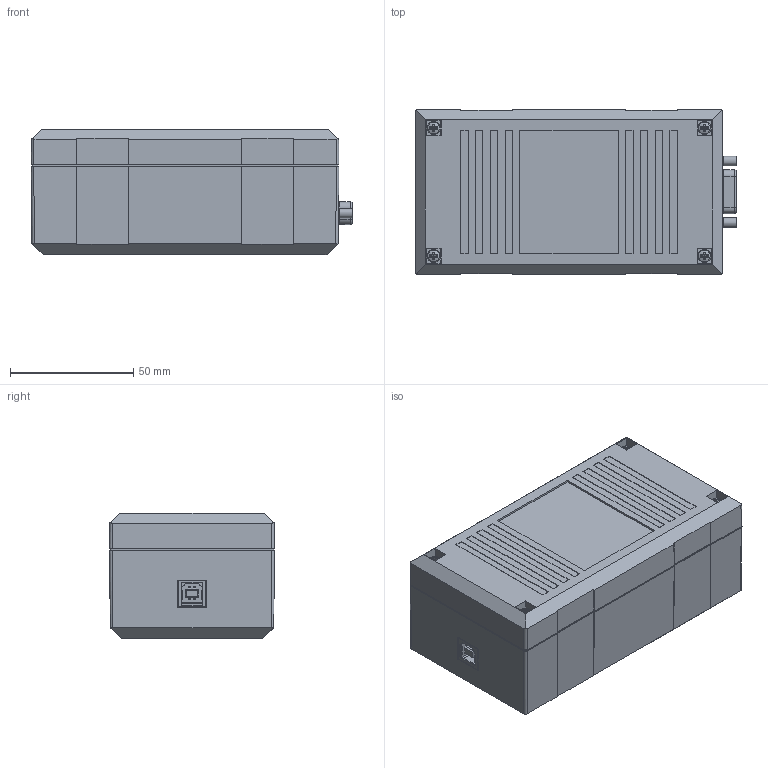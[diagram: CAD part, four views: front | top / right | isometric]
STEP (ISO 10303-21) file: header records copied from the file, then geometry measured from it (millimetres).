
FILE_DESCRIPTION(/* description */ (''),/* implementation_level */ '2;1');
FILE_NAME(/* name */ 'S:\Projects\ATC-USB-CAN, AX070501, Proj_6001\UNIT ASSEMBLY\RELEASED\rev A\AX070501.stp',/* time_stamp */ '2020-04-30T19:57:19-04:00',/* author */ ('tfisher'),/* organization */ (''),/* preprocessor_version */ 'ST-DEVELOPER v15.2',/* originating_system */ 'Autodesk Inventor 2014',/* authorisation */ '');
FILE_SCHEMA (('AUTOMOTIVE_DESIGN { 1 0 10303 214 3 1 1 }'));
Products named in the file (1): AX070501
Bounding box: 130.64 x 67 x 51 mm (x, y, z)
Volume: 111279.6 mm3; surface area: 84023.6 mm2
Topology: 3 solids, 9 shells, 3078 faces, 8119 edges, 5350 vertices
Faces by surface type: plane 2270, bspline 391, cylinder 254, cone 91, torus 68, sphere 4
Full cylindrical faces by diameter (mm): 0.635 x9, 1.016 x9, 1.201 x1, 2.4 x14, 2.5 x4, 2.845 x4, 3 x4, 3.099 x2, 3.175 x1, 3.454 x3, 3.5 x4, 3.632 x2, 3.708 x2, 3.835 x4, 3.988 x2, 4.724 x2, 4.775 x2, 5.3 x4, 5.334 x2, 5.584 x1, 5.677 x2, 7.734 x1, 8.331 x1
Entity records: 101620 total; most frequent: CARTESIAN_POINT 25612, ORIENTED_EDGE 15936, DIRECTION 13410, EDGE_CURVE 7968, LINE 6080, VECTOR 6080, VERTEX_POINT 5326, AXIS2_PLACEMENT_3D 3665
